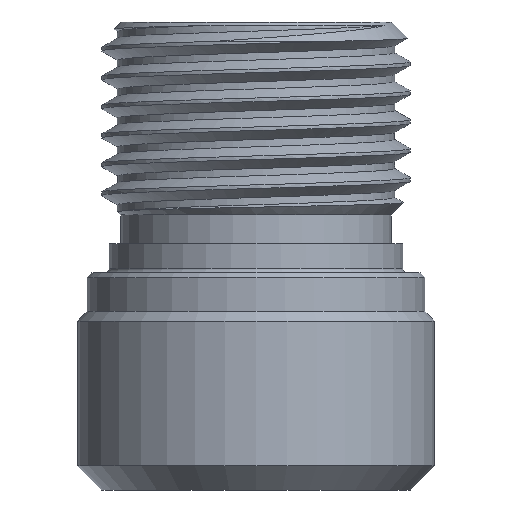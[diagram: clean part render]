
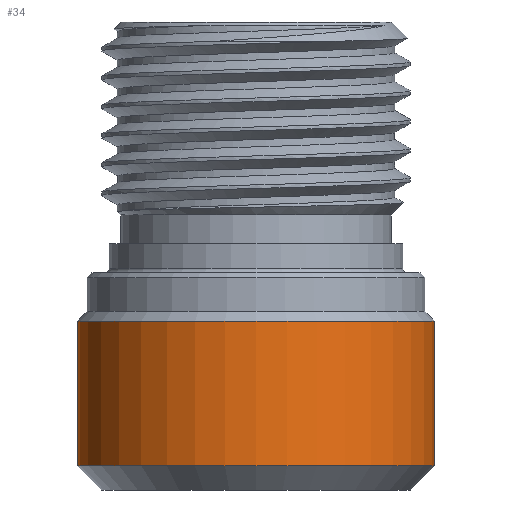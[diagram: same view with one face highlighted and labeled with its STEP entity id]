
A CAD part, front view. The second image highlights one B-rep face of the part: STEP entity #34.
In plain terms, the highlighted cylindrical face has radius 9.25 mm (diameter 18.5 mm), a full revolution.
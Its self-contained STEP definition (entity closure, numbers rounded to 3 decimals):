
#34 = ADVANCED_FACE ( 'NONE', ( #1700, #2973 ), #630, .T. ) ;
#144 = AXIS2_PLACEMENT_3D ( 'NONE', #2709, #1652, #611 ) ;
#204 = EDGE_CURVE ( 'NONE', #2930, #2930, #2712, .T. ) ;
#437 = CARTESIAN_POINT ( 'NONE',  ( 9.25, 0., -8.75 ) ) ;
#475 = CARTESIAN_POINT ( 'NONE',  ( 0., 0., -8.75 ) ) ;
#562 = DIRECTION ( 'NONE',  ( 0., 0., 1. ) ) ;
#611 = DIRECTION ( 'NONE',  ( 1., 0., 0. ) ) ;
#630 = CYLINDRICAL_SURFACE ( 'NONE', #144, 9.25 ) ;
#794 = CARTESIAN_POINT ( 'NONE',  ( 0., 0., -1.25 ) ) ;
#922 = EDGE_LOOP ( 'NONE', ( #1077 ) ) ;
#1077 = ORIENTED_EDGE ( 'NONE', *, *, #1812, .F. ) ;
#1216 = CIRCLE ( 'NONE', #2614, 9.25 ) ;
#1652 = DIRECTION ( 'NONE',  ( 0., 0., 1. ) ) ;
#1700 = FACE_OUTER_BOUND ( 'NONE', #922, .T. ) ;
#1725 = DIRECTION ( 'NONE',  ( 1., 0., 0. ) ) ;
#1812 = EDGE_CURVE ( 'NONE', #2447, #2447, #1216, .T. ) ;
#1838 = EDGE_LOOP ( 'NONE', ( #1918 ) ) ;
#1856 = AXIS2_PLACEMENT_3D ( 'NONE', #475, #2279, #1725 ) ;
#1918 = ORIENTED_EDGE ( 'NONE', *, *, #204, .T. ) ;
#2279 = DIRECTION ( 'NONE',  ( 0., 0., 1. ) ) ;
#2429 = CARTESIAN_POINT ( 'NONE',  ( 9.25, 0., -1.25 ) ) ;
#2447 = VERTEX_POINT ( 'NONE', #2429 ) ;
#2614 = AXIS2_PLACEMENT_3D ( 'NONE', #794, #562, #2822 ) ;
#2709 = CARTESIAN_POINT ( 'NONE',  ( 0., 0., 0. ) ) ;
#2712 = CIRCLE ( 'NONE', #1856, 9.25 ) ;
#2822 = DIRECTION ( 'NONE',  ( 1., 0., 0. ) ) ;
#2930 = VERTEX_POINT ( 'NONE', #437 ) ;
#2973 = FACE_OUTER_BOUND ( 'NONE', #1838, .T. ) ;
